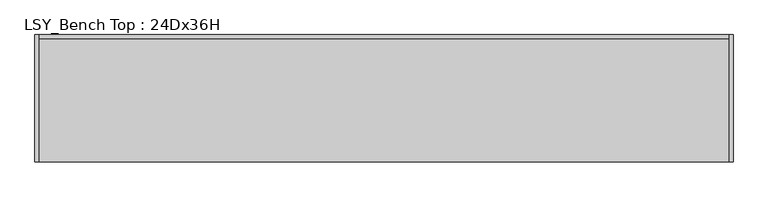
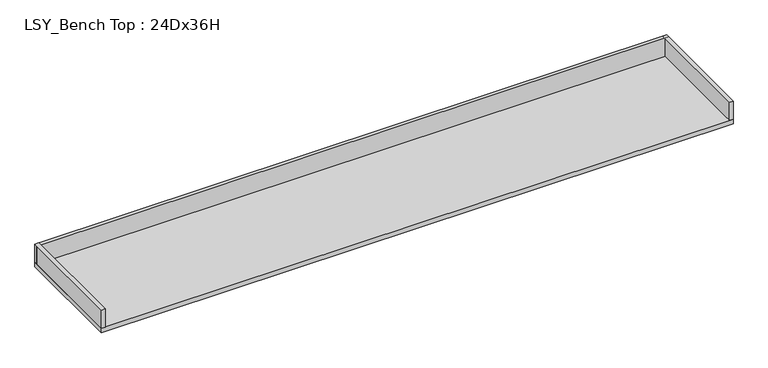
"""IFC4 building model written with IfcOpenShell, lengths in millimetres: furniture geometry, LSY_Bench Top : 24Dx36H."""

import ifcopenshell
import ifcopenshell.guid

model = None  # the IFC model being written
_history = None  # IfcOwnerHistory: only IFC2X3 demands one
_inside = {}  # id of a spatial element -> (the spatial element, [elements in it])
_under = {}  # id of a project, library or spatial element -> (it, [spatial elements below it])
_declared = {}  # id of a project -> (the project, [libraries it declares])
_typed = {}  # id of a type object -> (the type object, [elements of that type])
_made_of = {}  # id of a material, layer set ... -> (it, [elements and type objects made of it])


def new_model(schema):
    """Start an empty IFC model of exactly this schema.

    Asked for "IFC4X3", IfcOpenShell would pick the latest addendum, in which some entities
    have other attributes; the version numbers below select the first issue.
    IFC2X3 requires an IfcOwnerHistory on every rooted entity: one is made here for all.
    """
    global model, _history
    if schema == "IFC4X3":
        model = ifcopenshell.file(schema_version=(4, 3, 0, 0))
    else:
        model = ifcopenshell.file(schema=schema)
    _inside.clear()
    _under.clear()
    _declared.clear()
    _typed.clear()
    _made_of.clear()
    _history = None
    if model.schema == "IFC2X3":
        org = make("IfcOrganization", Name="unknown")
        user = make(
            "IfcPersonAndOrganization",
            ThePerson=make("IfcPerson", FamilyName="unknown"),
            TheOrganization=org,
        )
        app = make(
            "IfcApplication",
            ApplicationDeveloper=org,
            Version="unknown",
            ApplicationFullName="unknown",
            ApplicationIdentifier="unknown",
        )
        _history = make(
            "IfcOwnerHistory",
            OwningUser=user,
            OwningApplication=app,
            ChangeAction="ADDED",
            CreationDate=0,
        )
    return model


def make(cls, **values):
    """One entity of the class cls with the attributes given. An attribute that is None is left unset."""
    return model.create_entity(
        cls, **{name: value for name, value in values.items() if value is not None}
    )


def rooted(cls, **values):
    """An entity with a GlobalId (a new one), such as an element, a storey or a relation."""
    return make(cls, GlobalId=ifcopenshell.guid.new(), OwnerHistory=_history, **values)


def si_unit(unit_type, name, prefix=None):
    """IfcSIUnit, for example si_unit("LENGTHUNIT", "METRE", prefix="MILLI")."""
    return make("IfcSIUnit", UnitType=unit_type, Prefix=prefix, Name=name)


def assignment(units):
    """IfcUnitAssignment: the units of a project."""
    return None if units is None else make("IfcUnitAssignment", Units=units)


def point(xyz):
    """IfcCartesianPoint."""
    return None if xyz is None else make("IfcCartesianPoint", Coordinates=xyz)


def direction(xyz):
    """IfcDirection."""
    return None if xyz is None else make("IfcDirection", DirectionRatios=xyz)


def frame(location, z_axis=None, x_axis=None):
    """IfcAxis2Placement3D, a coordinate frame: its origin and axes. An axis left out is left unset."""
    return make(
        "IfcAxis2Placement3D",
        Location=point(location),
        Axis=direction(z_axis),
        RefDirection=direction(x_axis),
    )


def origin():
    """The frame at (0, 0, 0) with its axes left unset."""
    return frame((0.0, 0.0, 0.0))


def place(relative_to, where):
    """IfcLocalPlacement: puts the frame where relative to a parent placement (None: the world)."""
    return make(
        "IfcLocalPlacement", PlacementRelTo=relative_to, RelativePlacement=where
    )


def context(
    kind, dimensions, precision=None, world=None, true_north=None, identifier=None
):
    """IfcGeometricRepresentationContext, for example the 3D "Model" context."""
    return make(
        "IfcGeometricRepresentationContext",
        ContextIdentifier=identifier,
        ContextType=kind,
        CoordinateSpaceDimension=dimensions,
        Precision=precision,
        WorldCoordinateSystem=world,
        TrueNorth=true_north,
    )


def project(units=None, contexts=None):
    """IfcProject with its units and contexts."""
    return rooted(
        "IfcProject",
        Name="project",
        RepresentationContexts=contexts,
        UnitsInContext=assignment(units),
    )


def spatial(cls, under=None, at=None, **own):
    """A site, building, storey or space (cls), placed at a placement, below another one or the project."""
    s = rooted(cls, ObjectPlacement=at, **own)
    if under is not None:
        _under.setdefault(under.id(), (under, []))[1].append(s)
    return s


def polyline(points):
    """IfcPolyline through the points."""
    return make("IfcPolyline", Points=[point(p) for p in points])


def outline(outer, holes=None, kind="AREA"):
    """IfcArbitraryClosedProfileDef: a profile drawn as a closed curve; with holes, ...WithVoids."""
    if holes is None:
        return make("IfcArbitraryClosedProfileDef", ProfileType=kind, OuterCurve=outer)
    return make(
        "IfcArbitraryProfileDefWithVoids",
        ProfileType=kind,
        OuterCurve=outer,
        InnerCurves=holes,
    )


def extrude(swept, where, along, depth):
    """IfcExtrudedAreaSolid: the profile swept, set in the frame where, extruded along a direction by depth."""
    return make(
        "IfcExtrudedAreaSolid",
        SweptArea=swept,
        Position=where,
        ExtrudedDirection=direction(along),
        Depth=depth,
    )


def shape(context_of_items, identifier, shape_type, items):
    """IfcShapeRepresentation: the items that make up one representation, for example the "Body"."""
    return make(
        "IfcShapeRepresentation",
        ContextOfItems=context_of_items,
        RepresentationIdentifier=identifier,
        RepresentationType=shape_type,
        Items=items,
    )


def source(mapping_origin, context_of_items, identifier, shape_type, items):
    """IfcRepresentationMap: a shape defined once, which mapped items show again and again."""
    return make(
        "IfcRepresentationMap",
        MappingOrigin=mapping_origin,
        MappedRepresentation=shape(context_of_items, identifier, shape_type, items),
    )


def transform(
    local_origin,
    x_axis=None,
    y_axis=None,
    z_axis=None,
    scale=None,
    scale2=None,
    scale3=None,
    uniform=True,
):
    """IfcCartesianTransformationOperator3D, or its non-uniform kind. x_axis, y_axis, z_axis: its Axis1, 2, 3."""
    if uniform:
        return make(
            "IfcCartesianTransformationOperator3D",
            Axis1=direction(x_axis),
            Axis2=direction(y_axis),
            LocalOrigin=point(local_origin),
            Scale=scale,
            Axis3=direction(z_axis),
        )
    return make(
        "IfcCartesianTransformationOperator3DnonUniform",
        Axis1=direction(x_axis),
        Axis2=direction(y_axis),
        LocalOrigin=point(local_origin),
        Scale=scale,
        Axis3=direction(z_axis),
        Scale2=scale2,
        Scale3=scale3,
    )


def mapped(mapping_source, mapping_target):
    """IfcMappedItem: shows the shape of a source again, moved by a transform."""
    return make(
        "IfcMappedItem", MappingSource=mapping_source, MappingTarget=mapping_target
    )


def made_of(thing, what):
    """Note that an element or type object is made of a material, layer set ...; save() writes the relation."""
    if what is not None:
        _made_of.setdefault(what.id(), (what, []))[1].append(thing)
    return thing


def element(
    cls,
    number,
    at=None,
    inside=None,
    cuts=None,
    type_object=None,
    material=None,
    context=None,
    identifier="Body",
    shape_type=None,
    held_by="IfcProductDefinitionShape",
    body=None,
    shapes=None,
    **own,
):
    """One element of the class cls, such as IfcWall. Its Tag is "e" and its number.

    at: its placement. inside: the storey or other place that contains it. cuts: it is an
    opening in that element (IfcRelVoidsElement). A single representation is given by context,
    identifier, shape_type and body (its items); several are given by shapes. held_by: the class
    of the entity that holds the representations. save() writes the other relations.
    """
    e = rooted(cls, Tag="e%d" % number, ObjectPlacement=at, **own)
    if body is not None:
        shapes = [shape(context, identifier, shape_type, body)]
    if shapes is not None:
        e.Representation = make(held_by, Representations=shapes)
    if inside is not None:
        _inside.setdefault(inside.id(), (inside, []))[1].append(e)
    if cuts is not None:
        rooted(
            "IfcRelVoidsElement", RelatingBuildingElement=cuts, RelatedOpeningElement=e
        )
    if type_object is not None:
        _typed.setdefault(type_object.id(), (type_object, []))[1].append(e)
    return made_of(e, material)


def aggregate(whole, parts):
    """IfcRelAggregates: a whole, such as a stair, and the parts it consists of."""
    return rooted("IfcRelAggregates", RelatingObject=whole, RelatedObjects=parts)


def save(model, path):
    """Write the relations noted so far, then the file.

    IfcRelAggregates (storeys below a building ...), IfcRelContainedInSpatialStructure (elements
    in a storey), IfcRelDefinesByType, IfcRelAssociatesMaterial and IfcRelDeclares: one each for
    every whole, place, type object, material and project.
    """
    for whole, parts in _under.values():
        aggregate(whole, parts)
    for where, things in _inside.values():
        rooted(
            "IfcRelContainedInSpatialStructure",
            RelatedElements=things,
            RelatingStructure=where,
        )
    for kind, things in _typed.values():
        rooted("IfcRelDefinesByType", RelatedObjects=things, RelatingType=kind)
    for what, things in _made_of.values():
        rooted("IfcRelAssociatesMaterial", RelatedObjects=things, RelatingMaterial=what)
    for by, libraries in _declared.values():
        rooted("IfcRelDeclares", RelatingContext=by, RelatedDefinitions=libraries)
    model.write(path)


def lsy_bench_top_24dx36h_2ddf329b(model_context):
    return source(origin(), model_context, "Body", "SweptSolid", [
        extrude(outline(polyline([(2141.0627049, -615.0), (2141.0627049, -1224.6), (2122.0627049, -1224.6), (2122.0627049, -615.0), (2141.0627049, -615.0)])), frame((0.0, 0.0, 914.4), z_axis=(0.0, 0.0, 1.0), x_axis=(1.0, 0.0, 0.0)), (0.0, 0.0, 1.0), 102.0),
        extrude(outline(polyline([(-1200.4622951, -615.0), (-1181.4622951, -615.0), (-1181.4622951, -1224.6), (-1200.4622951, -1224.6), (-1200.4622951, -615.0)])), frame((0.0, 0.0, 914.4), z_axis=(0.0, 0.0, 1.0), x_axis=(1.0, 0.0, 0.0)), (0.0, 0.0, 1.0), 102.0),
        extrude(outline(polyline([(2141.0627049, -615.0), (2141.0627049, -1224.6), (-1200.4622951, -1224.6), (-1200.4622951, -615.0), (2141.0627049, -615.0)])), frame((0.0, 0.0, 889.0), z_axis=(0.0, 0.0, 1.0), x_axis=(1.0, 0.0, 0.0)), (0.0, 0.0, 1.0), 25.4),
        extrude(outline(polyline([(2141.0627049, -615.0), (2141.0627049, -634.0), (-1200.4622951, -634.0), (-1200.4622951, -615.0), (2141.0627049, -615.0)])), frame((0.0, 0.0, 914.4), z_axis=(0.0, 0.0, 1.0), x_axis=(1.0, 0.0, 0.0)), (0.0, 0.0, 1.0), 102.0),
    ])


if __name__ == "__main__":
    model = new_model("IFC4")
    model_context = context("Model", 3, world=origin())
    ifc_project = project(units=[si_unit("LENGTHUNIT", "METRE", prefix="MILLI")], contexts=[model_context])
    site = spatial("IfcSite", under=ifc_project)
    building = spatial("IfcBuilding", under=site)
    placement = place(None, origin())
    lsy_bench_top_24dx36h_shape = lsy_bench_top_24dx36h_2ddf329b(model_context)
    element("IfcFurniture", 1, ObjectType="LSY_Bench Top : 24Dx36H", at=placement, inside=building, context=model_context, shape_type="MappedRepresentation", body=[
        mapped(lsy_bench_top_24dx36h_shape, transform((0.0, 0.0, 0.0), x_axis=(1.0, 0.0, 0.0), y_axis=(0.0, 1.0, 0.0), z_axis=(0.0, 0.0, 1.0))),
    ])
    save(model, "model.ifc")
